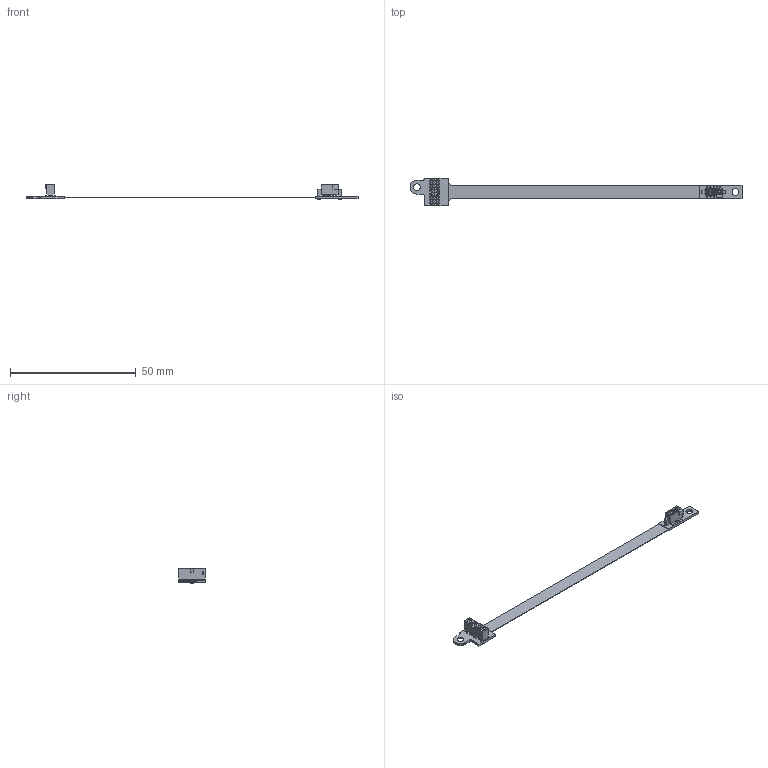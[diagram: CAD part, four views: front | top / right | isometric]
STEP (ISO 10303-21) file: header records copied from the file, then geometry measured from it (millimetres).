
FILE_DESCRIPTION(/* description */ ('VX1927D Zipwire/HSCT FlexPCB for VX154x'),/* implementation_level */ '2;1');
FILE_NAME(/* name */ 'C:\Users\TeamCenterSystem\Documents\Inventor\ASY_000536_CUST_iam.STP',/* time_stamp */ '2024-12-12T13:01:51+01:00',/* author */ ('vista'),/* organization */ (''),/* preprocessor_version */ 'ST-DEVELOPER v18.1',/* originating_system */ 'Autodesk Inventor 2022',/* authorisation */ '');
FILE_SCHEMA (('AUTOMOTIVE_DESIGN { 1 0 10303 214 3 1 1 }'));
Length unit declared in the file: millimetre
Products named in the file (2): ASY_000536_CUST; ASY_000536
Assembly tree (1 placements, depth 2):
  ASY_000536_CUST
    ASY_000536
Bounding box: 132.25 x 11 x 5.97 mm (x, y, z)
Volume: 534.3 mm3; surface area: 2261.4 mm2
Topology: 15 solids, 15 shells, 848 faces, 2192 edges, 1422 vertices
Faces by surface type: plane 652, cylinder 190, bspline 3, torus 2, cone 1
Full cylindrical faces by diameter (mm): 0.65 x20, 1.27 x2, 1.4 x2, 2.6 x1, 2.7 x1
Entity records: 26045 total; most frequent: CARTESIAN_POINT 4506, ORIENTED_EDGE 4384, DIRECTION 4272, EDGE_CURVE 2192, LINE 1796, VECTOR 1796, VERTEX_POINT 1422, AXIS2_PLACEMENT_3D 1238
